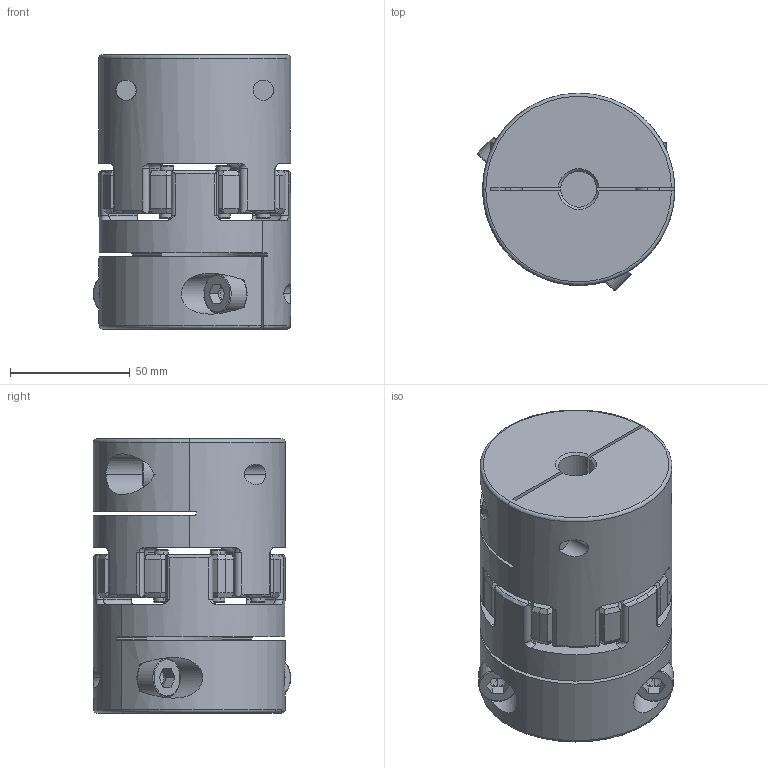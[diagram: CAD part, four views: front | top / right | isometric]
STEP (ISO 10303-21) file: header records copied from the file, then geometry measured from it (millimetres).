
FILE_DESCRIPTION (( 'STEP AP203' ), '1' );
FILE_NAME ('SJC-80C-15X45_203.STEP', '2013-02-18T05:20:39', ( '' ), ( '' ), 'SwSTEP 2.0', 'SolidWorks 2012', '' );
FILE_SCHEMA (( 'CONFIG_CONTROL_DESIGN' ));
Length unit declared in the file: millimetre
Products named in the file (1): SJC-80C-15X45_203
Bounding box: 82.25 x 82.25 x 114.2 mm (x, y, z)
Volume: 420132 mm3; surface area: 90305.4 mm2
Topology: 1 solids, 1 shells, 559 faces, 1473 edges, 893 vertices
Faces by surface type: cylinder 219, cone 120, plane 112, torus 108
Entity records: 18837 total; most frequent: CARTESIAN_POINT 4866, DIRECTION 3096, ORIENTED_EDGE 2906, EDGE_CURVE 1453, AXIS2_PLACEMENT_3D 1317, VERTEX_POINT 893, CIRCLE 757, EDGE_LOOP 596
